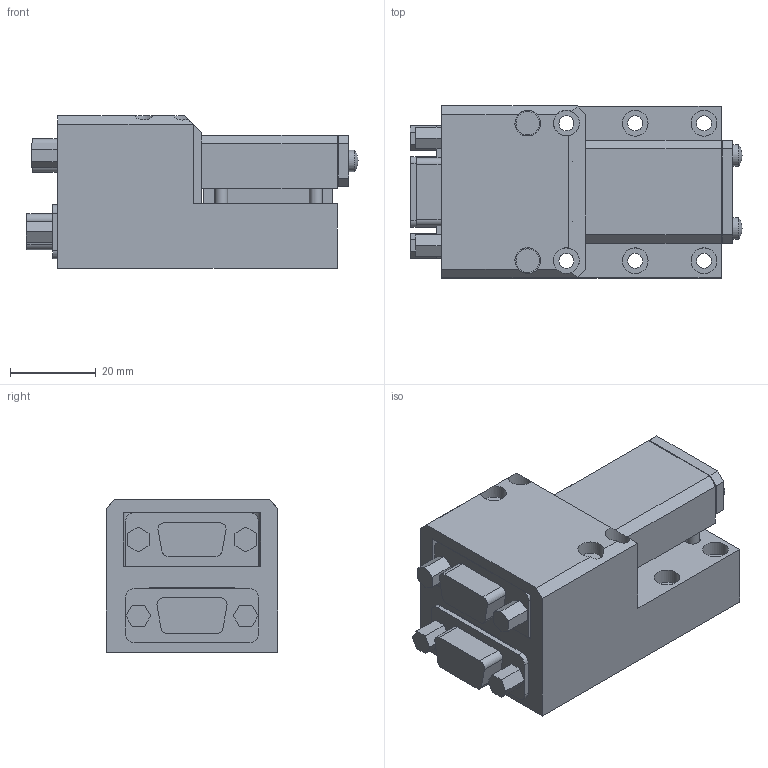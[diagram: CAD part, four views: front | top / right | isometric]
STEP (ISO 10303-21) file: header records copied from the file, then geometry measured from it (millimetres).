
FILE_DESCRIPTION( ( 'STEP AP203' ), '1' );
FILE_NAME( 'C:/3D-Trans/3D_F125-3A+071224.stp', '2007-12-24T02:28:11', ( ' ' ), ( ' ' ), 'XStep 1.0', ' ', ' ' );
FILE_SCHEMA( ( 'CONFIG_CONTROL_DESIGN' ) );
Length unit declared in the file: millimetre
Products named in the file (8): 1; 2; 3; 4; 5; 6; 7; 8
Bounding box: 77.25 x 40 x 35.5 mm (x, y, z)
Volume: 60679.6 mm3; surface area: 28474.3 mm2
Topology: 8 solids, 20 shells, 585 faces, 1453 edges, 973 vertices
Faces by surface type: plane 407, cylinder 141, cone 29, sphere 8
Full cylindrical faces by diameter (mm): 0.5 x3, 1 x23, 1.1 x3, 1.6 x4, 2.15 x2, 2.5 x10, 2.6 x2, 2.845 x4, 3 x11, 3.05 x2, 3.2 x4, 3.5 x12, 3.6 x1, 4 x1, 5 x4, 5.5 x2, 5.6 x6, 6 x14, 6.5 x1
Entity records: 16629 total; most frequent: CARTESIAN_POINT 3122, DIRECTION 2685, ORIENTED_EDGE 2412, EDGE_CURVE 1206, AXIS2_PLACEMENT_3D 905, VERTEX_POINT 888, EDGE_LOOP 879, LINE 875
